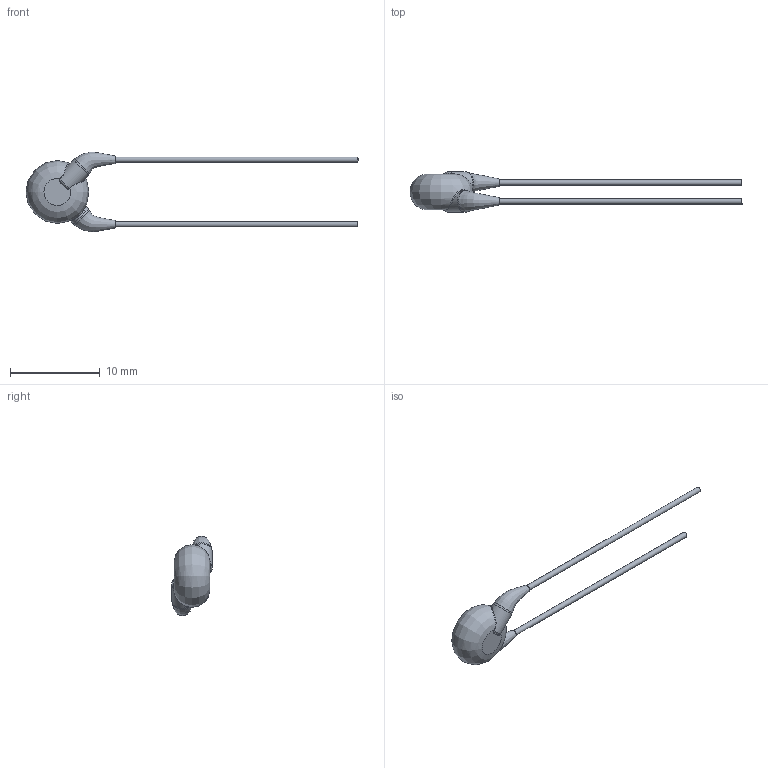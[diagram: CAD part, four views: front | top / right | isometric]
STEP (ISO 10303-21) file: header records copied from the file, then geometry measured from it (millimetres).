
FILE_DESCRIPTION(/* description */ (''),/* implementation_level */ '2;1');
FILE_NAME(/* name */ 'I:\Marketing\M6t1\3D-Models\Zchng-Werk-3\Upload for homepage\Roederstein\VKO\Y5U_300-440\VKO102MCQCF0KR\VKO102MCQCF0KR.stp',/* time_stamp */ '2018-03-15T10:56:46+01:00',/* author */ ('sheinrich'),/* organization */ (''),/* preprocessor_version */ 'ST-DEVELOPER v16.1',/* originating_system */ 'Autodesk Inventor 2016',/* authorisation */ '');
FILE_SCHEMA (('AUTOMOTIVE_DESIGN { 1 0 10303 214 3 1 1 }'));
Length unit declared in the file: centimetre
Products named in the file (1): VKO102MCQCF0KR
Bounding box: 37 x 4.5 x 8.82 mm (x, y, z)
Volume: 162.7 mm3; surface area: 273.2 mm2
Topology: 1 solids, 1 shells, 25 faces, 51 edges, 30 vertices
Faces by surface type: bspline 9, cylinder 8, plane 6, torus 2
Full cylindrical faces by diameter (mm): 0.6 x2, 2.4 x2
Entity records: 1543 total; most frequent: CARTESIAN_POINT 1025, ORIENTED_EDGE 90, DIRECTION 86, EDGE_CURVE 45, AXIS2_PLACEMENT_3D 39, EDGE_LOOP 31, VERTEX_POINT 28, STYLED_ITEM 26
